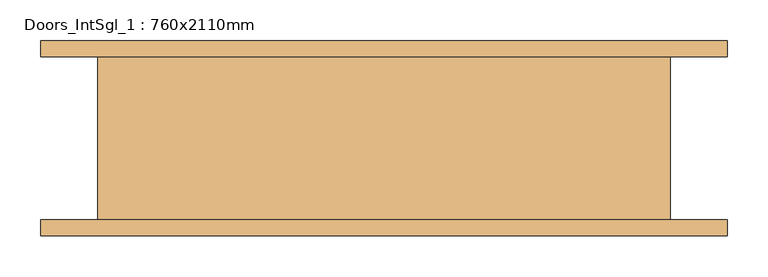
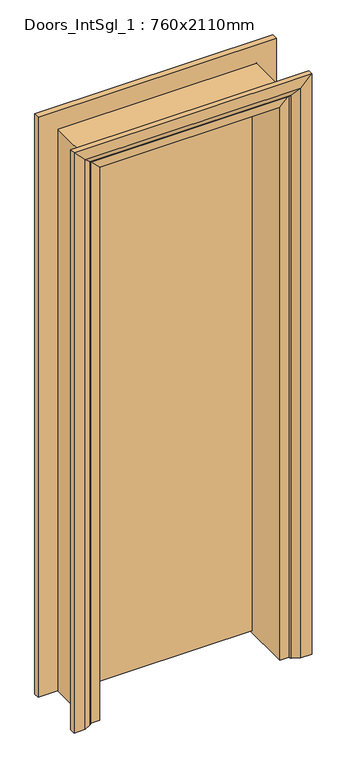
"""IFC4 building model written with IfcOpenShell, lengths in millimetres: door geometry, Doors_IntSgl_1 : 760x2110mm."""

from ifc_helpers import new_model, si_unit, frame, origin, place, context, project, spatial, polyline, circle_curve, ellipse_curve, outline, extrude, faceted_brep, source, transform, mapped, element, save
from ifc_brep_helpers import plane_surface, cylinder_surface, advanced_brep


def doors_intsgl_1_760x2110mm_e27d8b5d(model_context):
    return source(origin(), model_context, "Body", "SolidModel", [
        extrude(outline(polyline([(345.0, 70.0), (-345.0, 70.0), (-345.0, 100.0), (345.0, 100.0), (345.0, 70.0)])), frame((0.0, 0.0, 8.0), z_axis=(0.0, 0.0, 1.0), x_axis=(1.0, 0.0, 0.0)), (0.0, 0.0, 1.0), 2087.0),
        advanced_brep(
        [(422.0, 120.0, 0.0), (422.0, 100.0, 0.0), (352.0, 100.0, 0.0), (356.0, 106.0, 0.0), (382.0, 120.0, 0.0), (422.0, 120.0, 2172.0), (422.0, 100.0, 2172.0), (-422.0, 100.0, 2172.0), (-422.0, 100.0, 0.0), (-352.0, 100.0, 0.0), (-352.0, 100.0, 2102.0), (352.0, 100.0, 2102.0), (356.0, 106.0, 2106.0), (382.0, 120.0, 2132.0), (-382.0, 120.0, 2132.0), (-382.0, 120.0, 0.0), (-422.0, 120.0, 0.0), (-422.0, 120.0, 2172.0), (-356.0, 106.0, 0.0), (-356.0, 106.0, 2106.0)],
        [
            (0, 1),
            (1, 2),
            (2, 3, circle_curve(frame((360.0, 99.0, 0.0), z_axis=(0.0, 0.0, -1.0), x_axis=(1.0, 0.0, 0.0)), 8.0622577)),
            (3, 4),
            (4, 0),
            (0, 5),
            (5, 6),
            (6, 1),
            (6, 7),
            (7, 8),
            (8, 9),
            (9, 10),
            (10, 11),
            (11, 2),
            (11, 12, ellipse_curve(frame((360.0, 99.0, 2110.0), z_axis=(0.7071067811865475, 0.0, -0.7071067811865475), x_axis=(-0.7071067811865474, 0.0, -0.7071067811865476)), 11.4017543, 8.0622577)),
            (12, 3),
            (12, 13),
            (13, 4),
            (13, 14),
            (14, 15),
            (15, 16),
            (16, 17),
            (17, 5),
            (7, 17),
            (16, 8),
            (15, 18),
            (18, 9, circle_curve(frame((-360.0, 99.0, 0.0), z_axis=(0.0, 0.0, -1.0), x_axis=(-1.0, 0.0, 0.0)), 8.0622577)),
            (19, 10, ellipse_curve(frame((-360.0, 99.0, 2110.0), z_axis=(-0.7071067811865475, 0.0, -0.7071067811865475), x_axis=(-0.7071067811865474, 0.0, 0.7071067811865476)), 11.4017543, 8.0622577)),
            (18, 19),
            (14, 19),
            (19, 12),
        ],
        [
            plane_surface(frame((352.0, 100.0, 0.0), z_axis=(0.0, 0.0, -1.0), x_axis=(0.0, -1.0, 0.0))),
            plane_surface(frame((422.0, 120.0, 0.0), z_axis=(1.0, 0.0, 0.0), x_axis=(0.0, 0.0, 1.0))),
            plane_surface(frame((422.0, 100.0, 0.0), z_axis=(0.0, -1.0, 0.0), x_axis=(0.0, 0.0, 1.0))),
            cylinder_surface(frame((360.0, 99.0, 0.0), z_axis=(0.0, 0.0, -1.0), x_axis=(1.0, 0.0, 0.0)), 8.0622577),
            plane_surface(frame((356.0, 106.0, 0.0), z_axis=(-0.4740998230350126, 0.880471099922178, 0.0), x_axis=(0.0, 0.0, 1.0))),
            plane_surface(frame((382.0, 120.0, 0.0), z_axis=(0.0, 1.0, 0.0), x_axis=(0.0, 0.0, 1.0))),
            plane_surface(frame((-422.0, 120.0, 2172.0), z_axis=(-1.0, 0.0, 0.0), x_axis=(0.0, 0.0, -1.0))),
            plane_surface(frame((-352.0, 100.0, 0.0), z_axis=(0.0, 0.0, -1.0), x_axis=(0.0, -1.0, 0.0))),
            cylinder_surface(frame((-360.0, 99.0, 2102.0), z_axis=(0.0, 0.0, 1.0), x_axis=(-1.0, 0.0, 0.0)), 8.0622577),
            plane_surface(frame((-356.0, 106.0, 2106.0), z_axis=(0.47409982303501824, 0.8804710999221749, 0.0), x_axis=(0.0, 0.0, -1.0))),
            plane_surface(frame((422.0, 120.0, 2172.0), z_axis=(0.0, 0.0, 1.0), x_axis=(-1.0, 0.0, 0.0))),
            cylinder_surface(frame((352.0, 99.0, 2110.0), z_axis=(1.0, 0.0, 0.0), x_axis=(0.0, 0.0, 1.0)), 8.0622577),
            plane_surface(frame((356.0, 106.0, 2106.0), z_axis=(0.0, 0.8804710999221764, -0.4740998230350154), x_axis=(-1.0, 0.0, 0.0))),
        ],
        [
            (0, [[1, 2, 3, 4, 5]]),
            (1, [[-1, 6, 7, 8]]),
            (2, [[-2, -8, 9, 10, 11, 12, 13, 14]]),
            (3, [[-3, -14, 15, 16]]),
            (4, [[-4, -16, 17, 18]]),
            (5, [[-5, -18, 19, 20, 21, 22, 23, -6]]),
            (6, [[24, -22, 25, -10]]),
            (7, [[-21, 26, 27, -11, -25]]),
            (8, [[28, -12, -27, 29]]),
            (9, [[30, -29, -26, -20]]),
            (10, [[-7, -23, -24, -9]]),
            (11, [[-15, -13, -28, 31]]),
            (12, [[-17, -31, -30, -19]]),
        ],
    ),
        extrude(outline(polyline([(0.0, -347.0), (0.0, -328.0), (2078.0, -328.0), (2078.0, 328.0), (0.0, 328.0), (0.0, 347.0), (2097.0, 347.0), (2097.0, -347.0), (0.0, -347.0)])), frame((0.0, 36.0, 0.0), z_axis=(0.0, 1.0, 0.0), x_axis=(0.0, 0.0, 1.0)), (0.0, 0.0, 1.0), 32.0),
        advanced_brep(
        [(-422.0, -120.0, 0.0), (-422.0, -100.0, 0.0), (-352.0, -100.0, 0.0), (-356.0, -106.0, 0.0), (-382.0, -120.0, 0.0), (-422.0, -120.0, 2172.0), (-422.0, -100.0, 2172.0), (-352.0, -100.0, 2102.0), (-356.0, -106.0, 2106.0), (-382.0, -120.0, 2132.0), (422.0, -120.0, 0.0), (382.0, -120.0, 0.0), (356.0, -106.0, 0.0), (352.0, -100.0, 0.0), (422.0, -100.0, 0.0), (422.0, -120.0, 2172.0), (382.0, -120.0, 2132.0), (356.0, -106.0, 2106.0), (352.0, -100.0, 2102.0), (422.0, -100.0, 2172.0)],
        [
            (0, 1),
            (1, 2),
            (2, 3, circle_curve(frame((-360.0, -99.0, 0.0), z_axis=(0.0, 0.0, -1.0), x_axis=(-1.0, 0.0, 0.0)), 8.0622577)),
            (3, 4),
            (4, 0),
            (0, 5),
            (5, 6),
            (6, 1),
            (6, 7),
            (7, 2),
            (7, 8, ellipse_curve(frame((-360.0, -99.0, 2110.0), z_axis=(-0.7071067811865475, 0.0, -0.7071067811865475), x_axis=(0.7071067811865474, 0.0, -0.7071067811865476)), 11.4017543, 8.0622577)),
            (8, 3),
            (8, 9),
            (9, 4),
            (9, 5),
            (10, 11),
            (11, 12),
            (12, 13, circle_curve(frame((360.0, -99.0, 0.0), z_axis=(0.0, 0.0, -1.0), x_axis=(1.0, 0.0, 0.0)), 8.0622577)),
            (13, 14),
            (14, 10),
            (15, 16),
            (16, 11),
            (10, 15),
            (16, 17),
            (17, 12),
            (17, 18, ellipse_curve(frame((360.0, -99.0, 2110.0), z_axis=(0.7071067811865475, 0.0, -0.7071067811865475), x_axis=(0.7071067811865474, 0.0, 0.7071067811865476)), 11.4017543, 8.0622577)),
            (18, 13),
            (18, 19),
            (19, 14),
            (19, 15),
            (5, 15),
            (19, 6),
            (18, 7),
            (17, 8),
            (16, 9),
        ],
        [
            plane_surface(frame((-352.0, -172.8010989, 0.0), z_axis=(0.0, 0.0, -1.0), x_axis=(1.0, 0.0, 0.0))),
            plane_surface(frame((-422.0, -120.0, 0.0), z_axis=(-1.0, 0.0, 0.0), x_axis=(0.0, 0.0, 1.0))),
            plane_surface(frame((-422.0, -100.0, 0.0), z_axis=(0.0, 1.0, 0.0), x_axis=(0.0, 0.0, 1.0))),
            cylinder_surface(frame((-360.0, -99.0, 0.0), z_axis=(0.0, 0.0, -1.0), x_axis=(-1.0, 0.0, 0.0)), 8.0622577),
            plane_surface(frame((-356.0, -106.0, 0.0), z_axis=(0.4740998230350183, -0.8804710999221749, 0.0), x_axis=(0.0, 0.0, 1.0))),
            plane_surface(frame((-382.0, -120.0, 0.0), z_axis=(0.0, -1.0, 0.0), x_axis=(0.0, 0.0, 1.0))),
            plane_surface(frame((352.0, -172.8010989, 0.0), z_axis=(0.0, 0.0, -1.0), x_axis=(-1.0, 0.0, 0.0))),
            plane_surface(frame((382.0, -120.0, 2132.0), z_axis=(0.0, -1.0, 0.0), x_axis=(0.0, 0.0, -1.0))),
            plane_surface(frame((356.0, -106.0, 2106.0), z_axis=(-0.4740998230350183, -0.8804710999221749, 0.0), x_axis=(0.0, 0.0, -1.0))),
            cylinder_surface(frame((360.0, -99.0, 2102.0), z_axis=(0.0, 0.0, 1.0), x_axis=(1.0, 0.0, 0.0)), 8.0622577),
            plane_surface(frame((422.0, -100.0, 2172.0), z_axis=(0.0, 1.0, 0.0), x_axis=(0.0, 0.0, -1.0))),
            plane_surface(frame((422.0, -120.0, 2172.0), z_axis=(1.0, 0.0, 0.0), x_axis=(0.0, 0.0, -1.0))),
            plane_surface(frame((-422.0, -120.0, 2172.0), z_axis=(0.0, 0.0, 1.0), x_axis=(1.0, 0.0, 0.0))),
            plane_surface(frame((-422.0, -100.0, 2172.0), z_axis=(0.0, 1.0, 0.0), x_axis=(1.0, 0.0, 0.0))),
            cylinder_surface(frame((-352.0, -99.0, 2110.0), z_axis=(-1.0, 0.0, 0.0), x_axis=(0.0, 0.0, 1.0)), 8.0622577),
            plane_surface(frame((-356.0, -106.0, 2106.0), z_axis=(0.0, -0.8804710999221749, -0.4740998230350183), x_axis=(1.0, 0.0, 0.0))),
            plane_surface(frame((-382.0, -120.0, 2132.0), z_axis=(0.0, -1.0, 0.0), x_axis=(1.0, 0.0, 0.0))),
        ],
        [
            (0, [[1, 2, 3, 4, 5]]),
            (1, [[-1, 6, 7, 8]]),
            (2, [[-2, -8, 9, 10]]),
            (3, [[-3, -10, 11, 12]]),
            (4, [[-4, -12, 13, 14]]),
            (5, [[-5, -14, 15, -6]]),
            (6, [[16, 17, 18, 19, 20]]),
            (7, [[21, 22, -16, 23]]),
            (8, [[24, 25, -17, -22]]),
            (9, [[26, 27, -18, -25]]),
            (10, [[28, 29, -19, -27]]),
            (11, [[30, -23, -20, -29]]),
            (12, [[-7, 31, -30, 32]]),
            (13, [[-9, -32, -28, 33]]),
            (14, [[-11, -33, -26, 34]]),
            (15, [[-13, -34, -24, 35]]),
            (16, [[-15, -35, -21, -31]]),
        ],
    ),
        faceted_brep([(-320.0, 100.0, 0.0), (-320.0, -100.0, 0.0), (-352.0, -100.0, 0.0), (-352.0, 100.0, 0.0), (-320.0, 100.0, 2070.0), (-320.0, -100.0, 2070.0), (-352.0, -100.0, 2102.0), (-352.0, 100.0, 2102.0), (320.0, 100.0, 0.0), (352.0, 100.0, 0.0), (352.0, -100.0, 0.0), (320.0, -100.0, 0.0), (320.0, 100.0, 2070.0), (352.0, 100.0, 2102.0), (352.0, -100.0, 2102.0), (320.0, -100.0, 2070.0)], [[[0, 1, 2, 3]], [[1, 0, 4, 5]], [[2, 1, 5, 6]], [[3, 2, 6, 7]], [[0, 3, 7, 4]], [[8, 9, 10, 11]], [[12, 13, 9, 8]], [[13, 14, 10, 9]], [[14, 15, 11, 10]], [[15, 12, 8, 11]], [[5, 4, 12, 15]], [[6, 5, 15, 14]], [[7, 6, 14, 13]], [[4, 7, 13, 12]]]),
    ])


if __name__ == "__main__":
    model = new_model("IFC4")
    model_context = context("Model", 3, world=origin())
    ifc_project = project(units=[si_unit("LENGTHUNIT", "METRE", prefix="MILLI")], contexts=[model_context])
    site = spatial("IfcSite", under=ifc_project)
    building = spatial("IfcBuilding", under=site)
    placement = place(None, origin())
    doors_intsgl_1_760x2110mm_shape = doors_intsgl_1_760x2110mm_e27d8b5d(model_context)
    element("IfcDoor", 1, ObjectType="Doors_IntSgl_1 : 760x2110mm", at=placement, inside=building, context=model_context, shape_type="MappedRepresentation", body=[
        mapped(doors_intsgl_1_760x2110mm_shape, transform((0.0, 0.0, 0.0), x_axis=(1.0, 0.0, 0.0), y_axis=(0.0, 1.0, 0.0), z_axis=(0.0, 0.0, 1.0))),
    ])
    save(model, "model.ifc")
